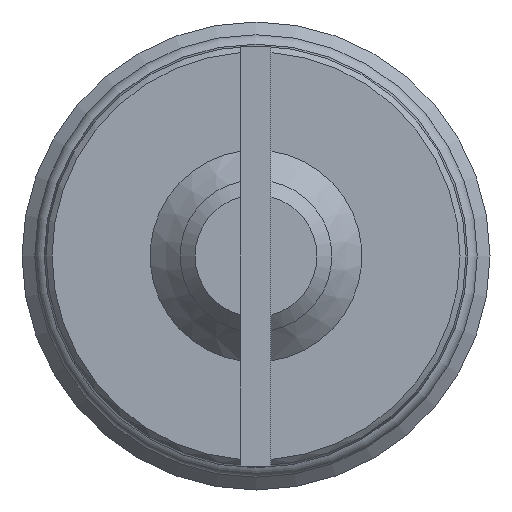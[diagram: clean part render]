
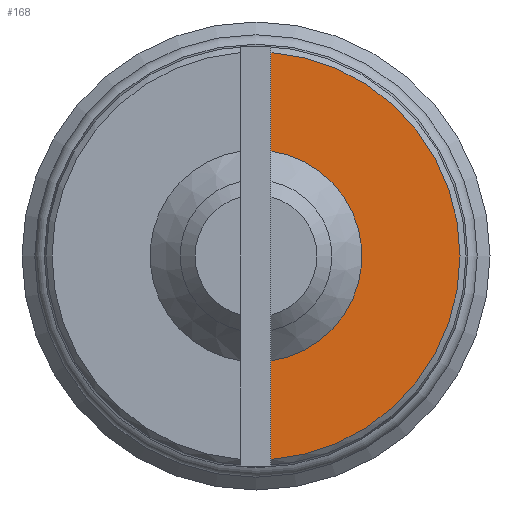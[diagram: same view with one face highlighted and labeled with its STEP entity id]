
A CAD part, left-side view. The second image highlights one B-rep face of the part: STEP entity #168.
In plain terms, the highlighted planar face has unit normal (-1, 0, 0).
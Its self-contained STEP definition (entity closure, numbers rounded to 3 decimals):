
#168 = ADVANCED_FACE( '', ( #353 ), #354, .F. );
#353 = FACE_OUTER_BOUND( '', #534, .T. );
#354 = PLANE( '', #535 );
#534 = EDGE_LOOP( '', ( #936, #937, #938, #939 ) );
#535 = AXIS2_PLACEMENT_3D( '', #940, #941, #942 );
#936 = ORIENTED_EDGE( '', *, *, #1013, .F. );
#937 = ORIENTED_EDGE( '', *, *, #1067, .T. );
#938 = ORIENTED_EDGE( '', *, *, #1125, .T. );
#939 = ORIENTED_EDGE( '', *, *, #1070, .T. );
#940 = CARTESIAN_POINT( '', ( 0., 0., 0. ) );
#941 = DIRECTION( '', ( 1., 0., 0. ) );
#942 = DIRECTION( '', ( 0., 0., -1. ) );
#1013 = EDGE_CURVE( '', #1198, #1167, #1200, .T. );
#1067 = EDGE_CURVE( '', #1198, #1282, #1285, .T. );
#1070 = EDGE_CURVE( '', #1289, #1167, #1290, .T. );
#1125 = EDGE_CURVE( '', #1282, #1289, #1364, .T. );
#1167 = VERTEX_POINT( '', #1411 );
#1198 = VERTEX_POINT( '', #1453 );
#1200 = CIRCLE( '', #1455, 6.8 );
#1282 = VERTEX_POINT( '', #1584 );
#1285 = LINE( '', #1590, #1591 );
#1289 = VERTEX_POINT( '', #1597 );
#1290 = LINE( '', #1598, #1599 );
#1364 = CIRCLE( '', #1711, 3.53 );
#1411 = CARTESIAN_POINT( '', ( 0., -0.5, -6.782 ) );
#1453 = CARTESIAN_POINT( '', ( 0., -0.5, 6.782 ) );
#1455 = AXIS2_PLACEMENT_3D( '', #1785, #1786, #1787 );
#1584 = CARTESIAN_POINT( '', ( 0., -0.5, 3.494 ) );
#1590 = CARTESIAN_POINT( '', ( 0., -0.5, 7. ) );
#1591 = VECTOR( '', #1836, 1000. );
#1597 = CARTESIAN_POINT( '', ( 0., -0.5, -3.494 ) );
#1598 = CARTESIAN_POINT( '', ( 0., -0.5, 7. ) );
#1599 = VECTOR( '', #1839, 1000. );
#1711 = AXIS2_PLACEMENT_3D( '', #1891, #1892, #1893 );
#1785 = CARTESIAN_POINT( '', ( 0., 0., 0. ) );
#1786 = DIRECTION( '', ( 1., 0., 0. ) );
#1787 = DIRECTION( '', ( 0., 0., -1. ) );
#1836 = DIRECTION( '', ( 0., 0., -1. ) );
#1839 = DIRECTION( '', ( 0., 0., -1. ) );
#1891 = CARTESIAN_POINT( '', ( 0., 0., 0. ) );
#1892 = DIRECTION( '', ( 1., 0., 0. ) );
#1893 = DIRECTION( '', ( 0., 0., -1. ) );
